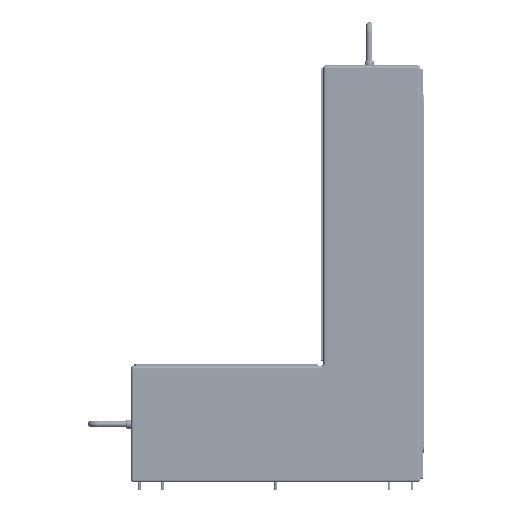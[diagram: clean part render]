
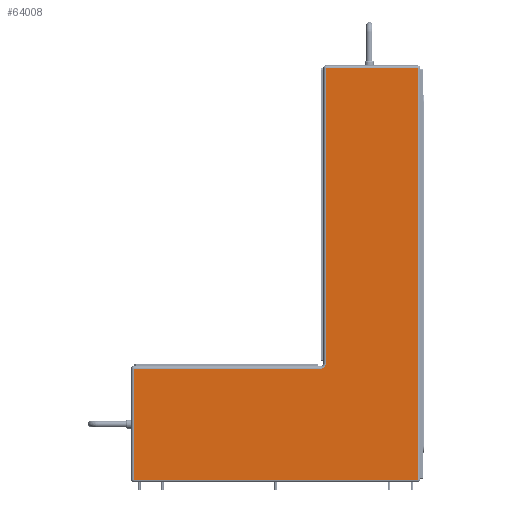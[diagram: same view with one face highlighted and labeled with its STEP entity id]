
A CAD part, left-side view. The second image highlights one B-rep face of the part: STEP entity #64008.
In plain terms, the highlighted planar face has unit normal (-1, 0, 0).
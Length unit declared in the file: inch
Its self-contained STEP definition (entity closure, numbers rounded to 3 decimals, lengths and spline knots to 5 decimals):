
#5036 = ORIENTED_EDGE ( 'NONE', *, *, #133766, .T. ) ;
#5976 = EDGE_CURVE ( 'NONE', #26870, #202981, #250875, .T. ) ;
#8028 = PLANE ( 'NONE',  #243706 ) ;
#19996 = CARTESIAN_POINT ( 'NONE',  ( -8.58454, -7.35651, 11.0844 ) ) ;
#20315 = CARTESIAN_POINT ( 'NONE',  ( -8.58454, -2.34651, -4.3256 ) ) ;
#26870 = VERTEX_POINT ( 'NONE', #182620 ) ;
#31898 = VERTEX_POINT ( 'NONE', #141614 ) ;
#35197 = CARTESIAN_POINT ( 'NONE',  ( -8.58454, 7.45349, -10.3256 ) ) ;
#45783 = DIRECTION ( 'NONE',  ( 0., 0., 1. ) ) ;
#51136 = VERTEX_POINT ( 'NONE', #234233 ) ;
#58832 = LINE ( 'NONE', #141697, #193581 ) ;
#60123 = LINE ( 'NONE', #252796, #193368 ) ;
#64008 = ADVANCED_FACE ( 'NONE', ( #70597 ), #8028, .F. ) ;
#65840 = EDGE_CURVE ( 'NONE', #202981, #31898, #93735, .T. ) ;
#69659 = VERTEX_POINT ( 'NONE', #97154 ) ;
#69889 = CARTESIAN_POINT ( 'NONE',  ( -8.58454, 7.32349, 11.0844 ) ) ;
#70597 = FACE_OUTER_BOUND ( 'NONE', #256771, .T. ) ;
#75285 = VECTOR ( 'NONE', #176615, 39.37008 ) ;
#93735 = LINE ( 'NONE', #35197, #75285 ) ;
#97154 = CARTESIAN_POINT ( 'NONE',  ( -8.58454, -2.34651, -4.5856 ) ) ;
#97515 = CARTESIAN_POINT ( 'NONE',  ( -8.58454, -2.60651, 10.9544 ) ) ;
#109226 = ORIENTED_EDGE ( 'NONE', *, *, #65840, .T. ) ;
#118229 = CARTESIAN_POINT ( 'NONE',  ( -8.58454, 7.32349, -10.3256 ) ) ;
#122274 = DIRECTION ( 'NONE',  ( -1., 0., 0. ) ) ;
#133766 = EDGE_CURVE ( 'NONE', #166764, #180013, #60123, .T. ) ;
#135966 = VECTOR ( 'NONE', #188185, 39.37008 ) ;
#137452 = ORIENTED_EDGE ( 'NONE', *, *, #161664, .T. ) ;
#141614 = CARTESIAN_POINT ( 'NONE',  ( -8.58454, -7.35651, -10.3256 ) ) ;
#141697 = CARTESIAN_POINT ( 'NONE',  ( -8.58454, 7.45349, -4.5856 ) ) ;
#142978 = DIRECTION ( 'NONE',  ( 0., 1., 0. ) ) ;
#147854 = EDGE_CURVE ( 'NONE', #69659, #26870, #58832, .T. ) ;
#149033 = ORIENTED_EDGE ( 'NONE', *, *, #5976, .T. ) ;
#149106 = LINE ( 'NONE', #19996, #206865 ) ;
#153472 = CARTESIAN_POINT ( 'NONE',  ( -8.58454, 7.45349, 11.0844 ) ) ;
#155371 = ORIENTED_EDGE ( 'NONE', *, *, #233249, .T. ) ;
#161664 = EDGE_CURVE ( 'NONE', #31898, #166764, #149106, .T. ) ;
#166764 = VERTEX_POINT ( 'NONE', #235344 ) ;
#171603 = VECTOR ( 'NONE', #249304, 39.37008 ) ;
#176615 = DIRECTION ( 'NONE',  ( 0., -1., 0. ) ) ;
#177859 = DIRECTION ( 'NONE',  ( 1., 0., 0. ) ) ;
#180013 = VERTEX_POINT ( 'NONE', #97515 ) ;
#182620 = CARTESIAN_POINT ( 'NONE',  ( -8.58454, 7.32349, -4.5856 ) ) ;
#184847 = DIRECTION ( 'NONE',  ( 0., 1., 0. ) ) ;
#187957 = CARTESIAN_POINT ( 'NONE',  ( -8.58454, -2.60651, 11.0844 ) ) ;
#188185 = DIRECTION ( 'NONE',  ( 0., 0., -1. ) ) ;
#193368 = VECTOR ( 'NONE', #142978, 39.37008 ) ;
#193581 = VECTOR ( 'NONE', #250516, 39.37008 ) ;
#202981 = VERTEX_POINT ( 'NONE', #118229 ) ;
#203718 = ORIENTED_EDGE ( 'NONE', *, *, #228239, .F. ) ;
#206865 = VECTOR ( 'NONE', #45783, 39.37008 ) ;
#214228 = AXIS2_PLACEMENT_3D ( 'NONE', #20315, #122274, #184847 ) ;
#218770 = DIRECTION ( 'NONE',  ( 0., 1., 0. ) ) ;
#224511 = ORIENTED_EDGE ( 'NONE', *, *, #147854, .T. ) ;
#228239 = EDGE_CURVE ( 'NONE', #69659, #51136, #261989, .T. ) ;
#233249 = EDGE_CURVE ( 'NONE', #180013, #51136, #247959, .T. ) ;
#234233 = CARTESIAN_POINT ( 'NONE',  ( -8.58454, -2.60651, -4.3256 ) ) ;
#235344 = CARTESIAN_POINT ( 'NONE',  ( -8.58454, -7.35651, 10.9544 ) ) ;
#243706 = AXIS2_PLACEMENT_3D ( 'NONE', #153472, #177859, #218770 ) ;
#247959 = LINE ( 'NONE', #187957, #171603 ) ;
#249304 = DIRECTION ( 'NONE',  ( 0., 0., -1. ) ) ;
#250516 = DIRECTION ( 'NONE',  ( 0., 1., 0. ) ) ;
#250875 = LINE ( 'NONE', #69889, #135966 ) ;
#252796 = CARTESIAN_POINT ( 'NONE',  ( -8.58454, -2.47651, 10.9544 ) ) ;
#256771 = EDGE_LOOP ( 'NONE', ( #149033, #109226, #137452, #5036, #155371, #203718, #224511 ) ) ;
#261989 = CIRCLE ( 'NONE', #214228, 0.26 ) ;
